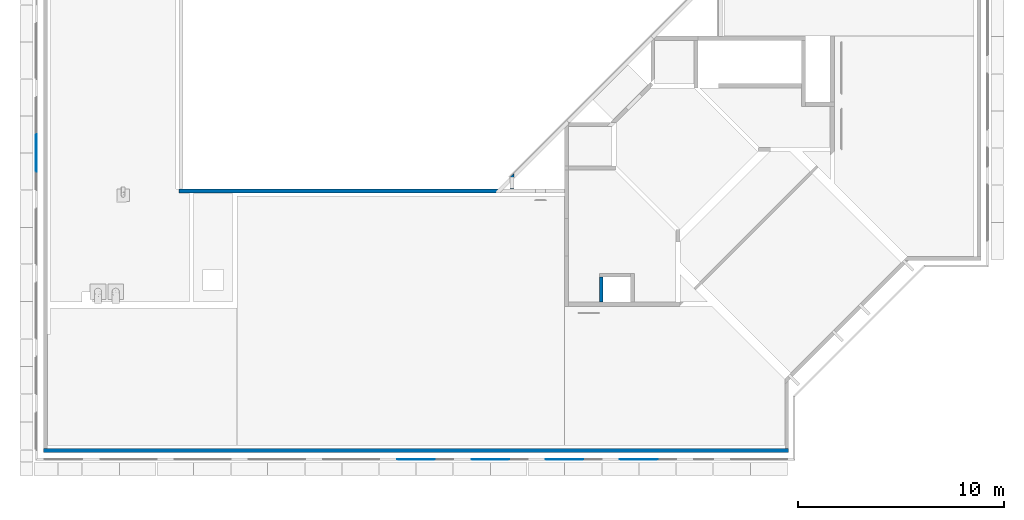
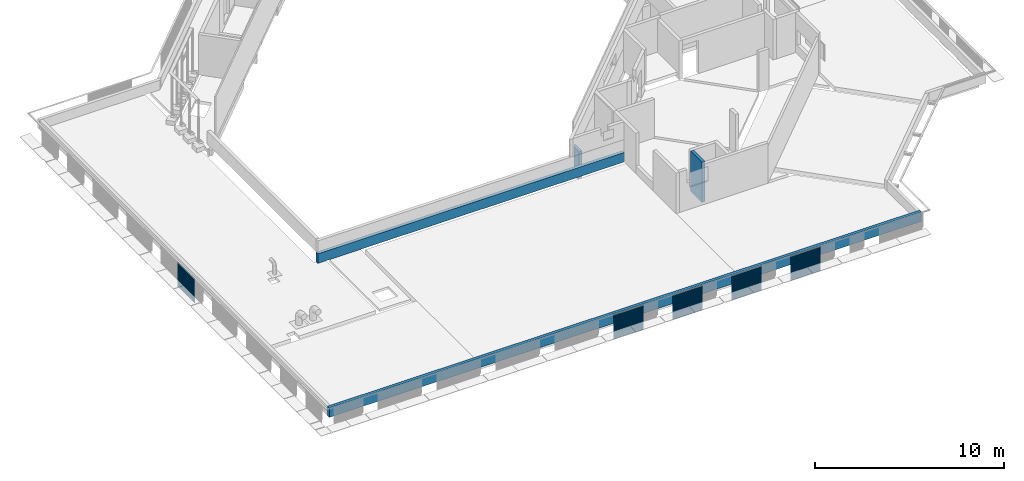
# One storey, part 9 of 37: 14 walls.
"""IFC4X3_ADD2 building model written with IfcOpenShell, lengths in millimetres."""

from ifc_helpers import new_model, si_unit, direction, frame, frame_2d, origin_with_axes, origin_2d_with_axis, place, context, subcontext, project, spatial, polyline, rectangle, outline, extrude, material, type_object, element, save


model = new_model("IFC4X3_ADD2")

# Units and contexts
model_context = context("Model", 3, precision=1e-05, world=origin_with_axes(), true_north=direction((0.0, 1.0)))
body_context = subcontext(model_context, "Body", "Model", "MODEL_VIEW")
ifc_project = project(units=[si_unit("LENGTHUNIT", "METRE", prefix="MILLI"), si_unit("AREAUNIT", "SQUARE_METRE"), si_unit("VOLUMEUNIT", "CUBIC_METRE"), si_unit("PLANEANGLEUNIT", "RADIAN"), si_unit("TIMEUNIT", "SECOND"), si_unit("MASSUNIT", "GRAM")], contexts=[model_context])

# Site, building, storey
site_placement = place(None, origin_with_axes())
site = spatial("IfcSite", under=ifc_project, at=site_placement, Name="Site", CompositionType="ELEMENT")
building_placement = place(site_placement, origin_with_axes())
building = spatial("IfcBuilding", under=site, at=building_placement, Name="IFC Building Story")
storey_placement = place(building_placement, frame((0.0, 0.0, 14400.0), z_axis=(0.0, 0.0, 1.0), x_axis=(1.0, 0.0, 0.0)))
storey = spatial("IfcBuildingStorey", under=building, at=storey_placement, Name="040", Elevation=14400.0)

# Walls
ifc_material_1 = material(Name="BB_Beton_Bestaand")
wall_type_1 = type_object("IfcWallType", Name="BB_Beton_Bestaand 200", PredefinedType="NOTDEFINED", material=ifc_material_1)
wall_1_placement = place(storey_placement, origin_with_axes())
element("IfcWall", 1, at=wall_1_placement, inside=storey, type_object=wall_type_1, Name="Basic Wall:BB_XX_Wand uit beton, 200 mm", ObjectType="Basic Wall:BB_XX_Wand uit beton, 200 mm", PredefinedType="SOLIDWALL", context=body_context, shape_type="SweptSolid", body=[
    extrude(rectangle(XDim=18700.0, YDim=200.0000000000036, at=origin_2d_with_axis()), frame((-29455.0, 12595.004065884, -200.0), z_axis=(0.0, 0.0, 1.0), x_axis=(1.0, 0.0, 0.0)), (0.0, 0.0, 1.0), 619.999999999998),
])
wall_type_2 = type_object("IfcWallType", Name="BB_Beton_Bestaand 190", PredefinedType="NOTDEFINED", material=ifc_material_1)
wall_2_placement = place(storey_placement, origin_with_axes())
element("IfcWall", 2, at=wall_2_placement, inside=storey, type_object=wall_type_2, Name="Basic Wall:BB_XX_Wand uit beton, 190 mm", ObjectType="Basic Wall:BB_XX_Wand uit beton, 190 mm", PredefinedType="SOLIDWALL", context=body_context, shape_type="SweptSolid", body=[
    extrude(rectangle(XDim=36154.9999999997, YDim=190.0, at=origin_2d_with_axis()), frame((-27302.49999999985, 0.0, -200.0), z_axis=(0.0, 0.0, 1.0), x_axis=(1.0, 0.0, 0.0)), (0.0, 0.0, 1.0), 619.9999999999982),
])
ifc_material_2 = material(Name="BB_Metselwerk_Betonsteen")
wall_type_3 = type_object("IfcWallType", Name="BB_Metselwerk_Betonsteen 190", PredefinedType="NOTDEFINED", material=ifc_material_2)
wall_3_placement = place(storey_placement, origin_with_axes())
element("IfcWall", 3, at=wall_3_placement, inside=storey, type_object=wall_type_3, Name="Basic Wall:BB_03.09.24#05_Wand uit metselwerk_EI60, 190 mm", ObjectType="Basic Wall:BB_03.09.24#05_Wand uit metselwerk_EI60, 190 mm", PredefinedType="SOLIDWALL", context=body_context, shape_type="SweptSolid", body=[
    extrude(rectangle(XDim=1210.00000000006, YDim=190.0, at=frame_2d((0.0, 0.0), x_axis=(0.0, 1.0))), frame((-18319.9870716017, 7804.99999999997, -200.0), z_axis=(0.0, 0.0, 1.0), x_axis=(1.0, 0.0, 0.0)), (0.0, 0.0, 1.0), 2600.0),
])
wall_4_placement = place(storey_placement, origin_with_axes())
element("IfcWall", 4, at=wall_4_placement, inside=storey, type_object=wall_type_3, Name="Basic Wall:BB_03.09.24#03_Wand uit metselwerk, 190 mm", ObjectType="Basic Wall:BB_03.09.24#03_Wand uit metselwerk, 190 mm", PredefinedType="SOLIDWALL", context=body_context, shape_type="SweptSolid", body=[
    extrude(outline(polyline([(95.0, 424.8958182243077), (95.0, -329.8958182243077), (-95.0, -329.8958182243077), (-95.0, 234.8958182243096), (95.0, 424.8958182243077)])), frame((-22649.8526351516, 13024.89988410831, -200.0), z_axis=(0.0, 0.0, 1.0), x_axis=(1.0, 0.0, 0.0)), (0.0, 0.0, 1.0), 1450.00000030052),
])
ifc_material_3 = material(Name="BB_Metaal_Aluminium_Puntprofiel")
wall_type_4 = type_object("IfcWallType", Name="BB_Metaal_Aluminium_Puntprofiel 1", PredefinedType="NOTDEFINED", material=ifc_material_3)
wall_5_placement = place(storey_placement, origin_with_axes())
element("IfcWall", 5, at=wall_5_placement, inside=storey, type_object=wall_type_4, Name="BB_07.10_Gevelbekleding_PuntProfiel, 900 mm, vol_GMO:900 x 1600 mm", ObjectType="BB_07.10_Gevelbekleding_PuntProfiel, 900 mm, vol_GMO:900 x 1600 mm", PredefinedType="NOTDEFINED", context=body_context, shape_type="SweptSolid", body=[
    extrude(outline(polyline([(10.06027913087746, 349.0000000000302), (10.06027913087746, 371.0000000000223), (-23.93972086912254, 405.0000000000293), (10.06027913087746, 439.0000000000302), (10.06027913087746, 461.0000000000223), (11.06027913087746, 461.4142135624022), (11.06027913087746, 438.5857864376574), (-22.52550730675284, 405.0000000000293), (11.06027913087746, 371.4142135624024), (11.06027913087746, 348.5857864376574), (-22.52550730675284, 315.0000000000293), (11.06027913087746, 281.4142135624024), (11.06027913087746, 258.5857864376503), (-22.52550730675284, 225.0000000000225), (11.06027913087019, 191.4142135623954), (11.06027913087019, 168.5857864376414), (-22.52550730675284, 135.0000000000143), (11.06027913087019, 101.4142135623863), (11.06027913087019, 78.58578643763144), (-22.52550730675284, 45.00000000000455), (11.06027913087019, 11.41421356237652), (11.06027913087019, -11.41421356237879), (-22.52550730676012, -45.00000000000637), (11.06027913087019, -78.58578643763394), (11.06027913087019, -101.4142135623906), (-22.52550730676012, -135.0000000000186), (11.06027913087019, -168.5857864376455), (11.06027913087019, -191.4142135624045), (-22.52550730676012, -225.0000000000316), (11.06027913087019, -258.5857864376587), (11.06027913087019, -281.4142135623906), (-22.52550730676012, -315.0000000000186), (11.06027913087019, -348.5857864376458), (11.06027913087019, -371.4142135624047), (-22.52550730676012, -405.0000000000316), (11.06027913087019, -438.5857864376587), (11.06027913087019, -461.4142135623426), (10.06027913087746, -460.9999999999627), (10.06027913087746, -439.0000000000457), (-23.93972086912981, -405.0000000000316), (10.06027913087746, -371.0000000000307), (10.06027913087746, -349.0000000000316), (-23.93972086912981, -315.0000000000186), (10.06027913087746, -281.0000000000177), (10.06027913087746, -259.0000000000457), (-23.93972086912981, -225.0000000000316), (10.06027913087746, -191.0000000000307), (10.06027913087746, -169.0000000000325), (-23.93972086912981, -135.0000000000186), (10.06027913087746, -101.0000000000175), (10.06027913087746, -79.00000000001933), (-23.93972086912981, -45.00000000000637), (10.06027913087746, -11.00000000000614), (10.06027913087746, 10.9999999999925), (-23.93972086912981, 45.00000000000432), (10.06027913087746, 79.00000000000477), (10.06027913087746, 101.0000000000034), (-23.93972086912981, 135.0000000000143), (10.06027913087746, 169.0000000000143), (10.06027913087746, 191.0000000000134), (-23.93972086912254, 225.0000000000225), (10.06027913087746, 259.0000000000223), (10.06027913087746, 281.0000000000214), (-23.93972086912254, 315.0000000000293), (10.06027913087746, 349.0000000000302)])), frame((-45726.06027913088, 13980.00000000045, -960.0), z_axis=(0.0, 0.0, 1.0), x_axis=(1.0, 0.0, 0.0)), (0.0, 0.0, 1.0), 1600.0),
])
wall_6_placement = place(storey_placement, origin_with_axes())
element("IfcWall", 6, at=wall_6_placement, inside=storey, type_object=wall_type_4, Name="BB_07.10_Gevelbekleding_PuntProfiel, 900 mm, vol_GMO:900 x 1600 mm", ObjectType="BB_07.10_Gevelbekleding_PuntProfiel, 900 mm, vol_GMO:900 x 1600 mm", PredefinedType="NOTDEFINED", context=body_context, shape_type="SweptSolid", body=[
    extrude(outline(polyline([(10.06027913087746, 349.0000000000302), (10.06027913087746, 371.0000000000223), (-23.93972086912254, 405.0000000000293), (10.06027913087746, 439.0000000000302), (10.06027913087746, 461.0000000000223), (11.06027913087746, 461.4142135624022), (11.06027913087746, 438.5857864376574), (-22.52550730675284, 405.0000000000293), (11.06027913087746, 371.4142135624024), (11.06027913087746, 348.5857864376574), (-22.52550730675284, 315.0000000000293), (11.06027913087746, 281.4142135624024), (11.06027913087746, 258.5857864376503), (-22.52550730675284, 225.0000000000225), (11.06027913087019, 191.4142135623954), (11.06027913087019, 168.5857864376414), (-22.52550730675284, 135.0000000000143), (11.06027913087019, 101.4142135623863), (11.06027913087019, 78.58578643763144), (-22.52550730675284, 45.00000000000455), (11.06027913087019, 11.41421356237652), (11.06027913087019, -11.41421356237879), (-22.52550730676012, -45.00000000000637), (11.06027913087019, -78.58578643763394), (11.06027913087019, -101.4142135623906), (-22.52550730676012, -135.0000000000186), (11.06027913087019, -168.5857864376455), (11.06027913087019, -191.4142135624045), (-22.52550730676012, -225.0000000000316), (11.06027913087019, -258.5857864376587), (11.06027913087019, -281.4142135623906), (-22.52550730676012, -315.0000000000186), (11.06027913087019, -348.5857864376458), (11.06027913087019, -371.4142135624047), (-22.52550730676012, -405.0000000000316), (11.06027913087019, -438.5857864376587), (11.06027913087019, -461.4142135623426), (10.06027913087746, -460.9999999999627), (10.06027913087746, -439.0000000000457), (-23.93972086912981, -405.0000000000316), (10.06027913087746, -371.0000000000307), (10.06027913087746, -349.0000000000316), (-23.93972086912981, -315.0000000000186), (10.06027913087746, -281.0000000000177), (10.06027913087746, -259.0000000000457), (-23.93972086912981, -225.0000000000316), (10.06027913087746, -191.0000000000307), (10.06027913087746, -169.0000000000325), (-23.93972086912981, -135.0000000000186), (10.06027913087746, -101.0000000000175), (10.06027913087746, -79.00000000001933), (-23.93972086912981, -45.00000000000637), (10.06027913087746, -11.00000000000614), (10.06027913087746, 10.9999999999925), (-23.93972086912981, 45.00000000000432), (10.06027913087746, 79.00000000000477), (10.06027913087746, 101.0000000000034), (-23.93972086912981, 135.0000000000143), (10.06027913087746, 169.0000000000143), (10.06027913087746, 191.0000000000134), (-23.93972086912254, 225.0000000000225), (10.06027913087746, 259.0000000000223), (10.06027913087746, 281.0000000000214), (-23.93972086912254, 315.0000000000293), (10.06027913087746, 349.0000000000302)])), frame((-45726.06027913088, 14880.00000000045, -960.0), z_axis=(0.0, 0.0, 1.0), x_axis=(1.0, 0.0, 0.0)), (0.0, 0.0, 1.0), 1600.0),
])
wall_7_placement = place(storey_placement, origin_with_axes())
element("IfcWall", 7, at=wall_7_placement, inside=storey, type_object=wall_type_4, Name="BB_07.10_Gevelbekleding_PuntProfiel, 900 mm, vol_GMO:900 x 1600 mm", ObjectType="BB_07.10_Gevelbekleding_PuntProfiel, 900 mm, vol_GMO:900 x 1600 mm", PredefinedType="NOTDEFINED", context=body_context, shape_type="SweptSolid", body=[
    extrude(outline(polyline([(-349.00000000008, 10.06027913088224), (-371.0000000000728, 10.06027913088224), (-405.0000000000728, -23.93972086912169), (-439.0000000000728, 10.06027913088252), (-461.0000000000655, 10.06027913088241), (-461.4142135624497, 11.060279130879), (-438.5857864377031, 11.060279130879), (-405.0000000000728, -22.52550730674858), (-371.414213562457, 11.06027913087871), (-348.5857864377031, 11.06027913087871), (-315.00000000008, -22.52550730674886), (-281.4142135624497, 11.06027913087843), (-258.5857864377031, 11.06027913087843), (-225.0000000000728, -22.52550730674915), (-191.4142135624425, 11.06027913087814), (-168.5857864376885, 11.06027913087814), (-135.0000000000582, -22.52550730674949), (-101.4142135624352, 11.06027913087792), (-78.58578643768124, 11.06027913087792), (-45.00000000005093, -22.52550730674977), (-11.41421356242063, 11.06027913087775), (11.41421356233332, 11.06027913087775), (44.99999999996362, -22.52550730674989), (78.58578643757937, 11.0602791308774), (101.4142135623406, 11.0602791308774), (134.9999999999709, -22.52550730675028), (168.5857864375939, 11.06027913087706), (191.4142135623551, 11.06027913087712), (224.9999999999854, -22.52550730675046), (258.5857864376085, 11.06027913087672), (281.4142135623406, 11.06027913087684), (314.9999999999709, -22.52550730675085), (348.5857864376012, 11.06027913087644), (371.4142135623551, 11.06027913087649), (404.9999999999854, -22.52550730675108), (438.5857864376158, 11.06027913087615), (461.4142135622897, 11.06027913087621), (460.9999999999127, 10.06027913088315), (438.9999999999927, 10.06027913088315), (404.9999999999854, -23.93972086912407), (370.9999999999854, 10.06027913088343), (348.9999999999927, 10.06027913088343), (314.9999999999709, -23.93972086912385), (280.9999999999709, 10.06027913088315), (259.0, 10.06027913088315), (224.9999999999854, -23.93972086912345), (190.9999999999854, 10.060279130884), (168.9999999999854, 10.060279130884), (134.9999999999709, -23.93972086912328), (100.9999999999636, 10.06027913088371), (78.9999999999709, 10.06027913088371), (44.99999999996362, -23.93972086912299), (10.99999999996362, 10.06027913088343), (-11.00000000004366, 10.06027913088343), (-45.00000000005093, -23.93972086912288), (-79.00000000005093, 10.06027913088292), (-101.0000000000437, 10.06027913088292), (-135.0000000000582, -23.9397208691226), (-169.0000000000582, 10.06027913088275), (-191.0000000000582, 10.06027913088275), (-225.0000000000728, -23.93972086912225), (-259.0000000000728, 10.06027913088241), (-281.0000000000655, 10.06027913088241), (-315.00000000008, -23.93972086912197), (-349.00000000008, 10.06027913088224)])), frame((-27750.0, -426.0602791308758, -960.0), z_axis=(0.0, 0.0, 1.0), x_axis=(1.0, 0.0, 0.0)), (0.0, 0.0, 1.0), 1600.0),
])
wall_8_placement = place(storey_placement, origin_with_axes())
element("IfcWall", 8, at=wall_8_placement, inside=storey, type_object=wall_type_4, Name="BB_07.10_Gevelbekleding_PuntProfiel, 900 mm, vol_GMO:900 x 1600 mm", ObjectType="BB_07.10_Gevelbekleding_PuntProfiel, 900 mm, vol_GMO:900 x 1600 mm", PredefinedType="NOTDEFINED", context=body_context, shape_type="SweptSolid", body=[
    extrude(outline(polyline([(-349.00000000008, 10.06027913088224), (-371.0000000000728, 10.06027913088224), (-405.0000000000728, -23.93972086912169), (-439.0000000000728, 10.06027913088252), (-461.0000000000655, 10.06027913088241), (-461.4142135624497, 11.060279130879), (-438.5857864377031, 11.060279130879), (-405.0000000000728, -22.52550730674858), (-371.414213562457, 11.06027913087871), (-348.5857864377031, 11.06027913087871), (-315.00000000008, -22.52550730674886), (-281.4142135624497, 11.06027913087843), (-258.5857864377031, 11.06027913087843), (-225.0000000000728, -22.52550730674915), (-191.4142135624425, 11.06027913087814), (-168.5857864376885, 11.06027913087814), (-135.0000000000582, -22.52550730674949), (-101.4142135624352, 11.06027913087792), (-78.58578643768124, 11.06027913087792), (-45.00000000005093, -22.52550730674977), (-11.41421356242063, 11.06027913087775), (11.41421356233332, 11.06027913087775), (44.99999999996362, -22.52550730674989), (78.58578643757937, 11.0602791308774), (101.4142135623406, 11.0602791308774), (134.9999999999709, -22.52550730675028), (168.5857864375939, 11.06027913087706), (191.4142135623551, 11.06027913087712), (224.9999999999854, -22.52550730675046), (258.5857864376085, 11.06027913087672), (281.4142135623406, 11.06027913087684), (314.9999999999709, -22.52550730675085), (348.5857864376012, 11.06027913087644), (371.4142135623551, 11.06027913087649), (404.9999999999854, -22.52550730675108), (438.5857864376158, 11.06027913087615), (461.4142135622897, 11.06027913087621), (460.9999999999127, 10.06027913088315), (438.9999999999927, 10.06027913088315), (404.9999999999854, -23.93972086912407), (370.9999999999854, 10.06027913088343), (348.9999999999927, 10.06027913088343), (314.9999999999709, -23.93972086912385), (280.9999999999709, 10.06027913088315), (259.0, 10.06027913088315), (224.9999999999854, -23.93972086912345), (190.9999999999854, 10.060279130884), (168.9999999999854, 10.060279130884), (134.9999999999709, -23.93972086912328), (100.9999999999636, 10.06027913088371), (78.9999999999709, 10.06027913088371), (44.99999999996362, -23.93972086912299), (10.99999999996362, 10.06027913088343), (-11.00000000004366, 10.06027913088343), (-45.00000000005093, -23.93972086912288), (-79.00000000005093, 10.06027913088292), (-101.0000000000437, 10.06027913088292), (-135.0000000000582, -23.9397208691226), (-169.0000000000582, 10.06027913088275), (-191.0000000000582, 10.06027913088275), (-225.0000000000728, -23.93972086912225), (-259.0000000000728, 10.06027913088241), (-281.0000000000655, 10.06027913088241), (-315.00000000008, -23.93972086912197), (-349.00000000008, 10.06027913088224)])), frame((-26850.0, -426.0602791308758, -960.0), z_axis=(0.0, 0.0, 1.0), x_axis=(1.0, 0.0, 0.0)), (0.0, 0.0, 1.0), 1600.0),
])
wall_9_placement = place(storey_placement, origin_with_axes())
element("IfcWall", 9, at=wall_9_placement, inside=storey, type_object=wall_type_4, Name="BB_07.10_Gevelbekleding_PuntProfiel, 900 mm, vol_GMO:900 x 1600 mm", ObjectType="BB_07.10_Gevelbekleding_PuntProfiel, 900 mm, vol_GMO:900 x 1600 mm", PredefinedType="NOTDEFINED", context=body_context, shape_type="SweptSolid", body=[
    extrude(outline(polyline([(-349.00000000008, 10.06027913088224), (-371.0000000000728, 10.06027913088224), (-405.0000000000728, -23.93972086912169), (-439.0000000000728, 10.06027913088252), (-461.0000000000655, 10.06027913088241), (-461.4142135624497, 11.060279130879), (-438.5857864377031, 11.060279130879), (-405.0000000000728, -22.52550730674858), (-371.414213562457, 11.06027913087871), (-348.5857864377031, 11.06027913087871), (-315.00000000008, -22.52550730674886), (-281.4142135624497, 11.06027913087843), (-258.5857864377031, 11.06027913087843), (-225.0000000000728, -22.52550730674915), (-191.4142135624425, 11.06027913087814), (-168.5857864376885, 11.06027913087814), (-135.0000000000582, -22.52550730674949), (-101.4142135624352, 11.06027913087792), (-78.58578643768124, 11.06027913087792), (-45.00000000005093, -22.52550730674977), (-11.41421356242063, 11.06027913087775), (11.41421356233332, 11.06027913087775), (44.99999999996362, -22.52550730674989), (78.58578643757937, 11.0602791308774), (101.4142135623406, 11.0602791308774), (134.9999999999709, -22.52550730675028), (168.5857864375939, 11.06027913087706), (191.4142135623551, 11.06027913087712), (224.9999999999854, -22.52550730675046), (258.5857864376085, 11.06027913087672), (281.4142135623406, 11.06027913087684), (314.9999999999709, -22.52550730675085), (348.5857864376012, 11.06027913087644), (371.4142135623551, 11.06027913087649), (404.9999999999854, -22.52550730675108), (438.5857864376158, 11.06027913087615), (461.4142135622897, 11.06027913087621), (460.9999999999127, 10.06027913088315), (438.9999999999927, 10.06027913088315), (404.9999999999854, -23.93972086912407), (370.9999999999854, 10.06027913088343), (348.9999999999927, 10.06027913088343), (314.9999999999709, -23.93972086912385), (280.9999999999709, 10.06027913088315), (259.0, 10.06027913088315), (224.9999999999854, -23.93972086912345), (190.9999999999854, 10.060279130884), (168.9999999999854, 10.060279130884), (134.9999999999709, -23.93972086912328), (100.9999999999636, 10.06027913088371), (78.9999999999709, 10.06027913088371), (44.99999999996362, -23.93972086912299), (10.99999999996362, 10.06027913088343), (-11.00000000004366, 10.06027913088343), (-45.00000000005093, -23.93972086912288), (-79.00000000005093, 10.06027913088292), (-101.0000000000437, 10.06027913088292), (-135.0000000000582, -23.9397208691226), (-169.0000000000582, 10.06027913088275), (-191.0000000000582, 10.06027913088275), (-225.0000000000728, -23.93972086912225), (-259.0000000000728, 10.06027913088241), (-281.0000000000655, 10.06027913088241), (-315.00000000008, -23.93972086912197), (-349.00000000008, 10.06027913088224)])), frame((-24150.0, -426.0602791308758, -960.0), z_axis=(0.0, 0.0, 1.0), x_axis=(1.0, 0.0, 0.0)), (0.0, 0.0, 1.0), 1600.0),
])
wall_10_placement = place(storey_placement, origin_with_axes())
element("IfcWall", 10, at=wall_10_placement, inside=storey, type_object=wall_type_4, Name="BB_07.10_Gevelbekleding_PuntProfiel, 900 mm, vol_GMO:900 x 1600 mm", ObjectType="BB_07.10_Gevelbekleding_PuntProfiel, 900 mm, vol_GMO:900 x 1600 mm", PredefinedType="NOTDEFINED", context=body_context, shape_type="SweptSolid", body=[
    extrude(outline(polyline([(-349.00000000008, 10.06027913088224), (-371.0000000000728, 10.06027913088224), (-405.0000000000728, -23.93972086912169), (-439.0000000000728, 10.06027913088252), (-461.0000000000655, 10.06027913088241), (-461.4142135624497, 11.060279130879), (-438.5857864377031, 11.060279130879), (-405.0000000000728, -22.52550730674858), (-371.414213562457, 11.06027913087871), (-348.5857864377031, 11.06027913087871), (-315.00000000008, -22.52550730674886), (-281.4142135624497, 11.06027913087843), (-258.5857864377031, 11.06027913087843), (-225.0000000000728, -22.52550730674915), (-191.4142135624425, 11.06027913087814), (-168.5857864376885, 11.06027913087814), (-135.0000000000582, -22.52550730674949), (-101.4142135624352, 11.06027913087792), (-78.58578643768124, 11.06027913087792), (-45.00000000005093, -22.52550730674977), (-11.41421356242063, 11.06027913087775), (11.41421356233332, 11.06027913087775), (44.99999999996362, -22.52550730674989), (78.58578643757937, 11.0602791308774), (101.4142135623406, 11.0602791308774), (134.9999999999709, -22.52550730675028), (168.5857864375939, 11.06027913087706), (191.4142135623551, 11.06027913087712), (224.9999999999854, -22.52550730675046), (258.5857864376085, 11.06027913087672), (281.4142135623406, 11.06027913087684), (314.9999999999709, -22.52550730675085), (348.5857864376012, 11.06027913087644), (371.4142135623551, 11.06027913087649), (404.9999999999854, -22.52550730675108), (438.5857864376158, 11.06027913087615), (461.4142135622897, 11.06027913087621), (460.9999999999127, 10.06027913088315), (438.9999999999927, 10.06027913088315), (404.9999999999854, -23.93972086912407), (370.9999999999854, 10.06027913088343), (348.9999999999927, 10.06027913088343), (314.9999999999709, -23.93972086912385), (280.9999999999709, 10.06027913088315), (259.0, 10.06027913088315), (224.9999999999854, -23.93972086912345), (190.9999999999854, 10.060279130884), (168.9999999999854, 10.060279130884), (134.9999999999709, -23.93972086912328), (100.9999999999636, 10.06027913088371), (78.9999999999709, 10.06027913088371), (44.99999999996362, -23.93972086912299), (10.99999999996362, 10.06027913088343), (-11.00000000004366, 10.06027913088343), (-45.00000000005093, -23.93972086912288), (-79.00000000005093, 10.06027913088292), (-101.0000000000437, 10.06027913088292), (-135.0000000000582, -23.9397208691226), (-169.0000000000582, 10.06027913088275), (-191.0000000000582, 10.06027913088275), (-225.0000000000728, -23.93972086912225), (-259.0000000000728, 10.06027913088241), (-281.0000000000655, 10.06027913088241), (-315.00000000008, -23.93972086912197), (-349.00000000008, 10.06027913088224)])), frame((-23250.0, -426.0602791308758, -960.0), z_axis=(0.0, 0.0, 1.0), x_axis=(1.0, 0.0, 0.0)), (0.0, 0.0, 1.0), 1600.0),
])
wall_11_placement = place(storey_placement, origin_with_axes())
element("IfcWall", 11, at=wall_11_placement, inside=storey, type_object=wall_type_4, Name="BB_07.10_Gevelbekleding_PuntProfiel, 900 mm, vol_GMO:900 x 1600 mm", ObjectType="BB_07.10_Gevelbekleding_PuntProfiel, 900 mm, vol_GMO:900 x 1600 mm", PredefinedType="NOTDEFINED", context=body_context, shape_type="SweptSolid", body=[
    extrude(outline(polyline([(-349.00000000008, 10.06027913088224), (-371.0000000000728, 10.06027913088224), (-405.0000000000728, -23.93972086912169), (-439.0000000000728, 10.06027913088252), (-461.0000000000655, 10.06027913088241), (-461.4142135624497, 11.060279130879), (-438.5857864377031, 11.060279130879), (-405.0000000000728, -22.52550730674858), (-371.414213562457, 11.06027913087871), (-348.5857864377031, 11.06027913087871), (-315.00000000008, -22.52550730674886), (-281.4142135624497, 11.06027913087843), (-258.5857864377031, 11.06027913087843), (-225.0000000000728, -22.52550730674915), (-191.4142135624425, 11.06027913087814), (-168.5857864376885, 11.06027913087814), (-135.0000000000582, -22.52550730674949), (-101.4142135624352, 11.06027913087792), (-78.58578643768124, 11.06027913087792), (-45.00000000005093, -22.52550730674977), (-11.41421356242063, 11.06027913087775), (11.41421356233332, 11.06027913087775), (44.99999999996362, -22.52550730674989), (78.58578643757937, 11.0602791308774), (101.4142135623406, 11.0602791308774), (134.9999999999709, -22.52550730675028), (168.5857864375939, 11.06027913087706), (191.4142135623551, 11.06027913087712), (224.9999999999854, -22.52550730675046), (258.5857864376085, 11.06027913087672), (281.4142135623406, 11.06027913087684), (314.9999999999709, -22.52550730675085), (348.5857864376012, 11.06027913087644), (371.4142135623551, 11.06027913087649), (404.9999999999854, -22.52550730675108), (438.5857864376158, 11.06027913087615), (461.4142135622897, 11.06027913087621), (460.9999999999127, 10.06027913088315), (438.9999999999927, 10.06027913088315), (404.9999999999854, -23.93972086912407), (370.9999999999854, 10.06027913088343), (348.9999999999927, 10.06027913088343), (314.9999999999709, -23.93972086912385), (280.9999999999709, 10.06027913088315), (259.0, 10.06027913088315), (224.9999999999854, -23.93972086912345), (190.9999999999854, 10.060279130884), (168.9999999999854, 10.060279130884), (134.9999999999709, -23.93972086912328), (100.9999999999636, 10.06027913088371), (78.9999999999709, 10.06027913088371), (44.99999999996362, -23.93972086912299), (10.99999999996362, 10.06027913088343), (-11.00000000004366, 10.06027913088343), (-45.00000000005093, -23.93972086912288), (-79.00000000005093, 10.06027913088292), (-101.0000000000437, 10.06027913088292), (-135.0000000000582, -23.9397208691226), (-169.0000000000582, 10.06027913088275), (-191.0000000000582, 10.06027913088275), (-225.0000000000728, -23.93972086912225), (-259.0000000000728, 10.06027913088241), (-281.0000000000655, 10.06027913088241), (-315.00000000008, -23.93972086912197), (-349.00000000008, 10.06027913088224)])), frame((-20550.0, -426.0602791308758, -960.0), z_axis=(0.0, 0.0, 1.0), x_axis=(1.0, 0.0, 0.0)), (0.0, 0.0, 1.0), 1600.0),
])
wall_12_placement = place(storey_placement, origin_with_axes())
element("IfcWall", 12, at=wall_12_placement, inside=storey, type_object=wall_type_4, Name="BB_07.10_Gevelbekleding_PuntProfiel, 900 mm, vol_GMO:900 x 1600 mm", ObjectType="BB_07.10_Gevelbekleding_PuntProfiel, 900 mm, vol_GMO:900 x 1600 mm", PredefinedType="NOTDEFINED", context=body_context, shape_type="SweptSolid", body=[
    extrude(outline(polyline([(-349.00000000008, 10.06027913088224), (-371.0000000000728, 10.06027913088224), (-405.0000000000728, -23.93972086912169), (-439.0000000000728, 10.06027913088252), (-461.0000000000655, 10.06027913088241), (-461.4142135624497, 11.060279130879), (-438.5857864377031, 11.060279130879), (-405.0000000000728, -22.52550730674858), (-371.414213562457, 11.06027913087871), (-348.5857864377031, 11.06027913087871), (-315.00000000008, -22.52550730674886), (-281.4142135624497, 11.06027913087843), (-258.5857864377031, 11.06027913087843), (-225.0000000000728, -22.52550730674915), (-191.4142135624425, 11.06027913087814), (-168.5857864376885, 11.06027913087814), (-135.0000000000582, -22.52550730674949), (-101.4142135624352, 11.06027913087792), (-78.58578643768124, 11.06027913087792), (-45.00000000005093, -22.52550730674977), (-11.41421356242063, 11.06027913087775), (11.41421356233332, 11.06027913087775), (44.99999999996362, -22.52550730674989), (78.58578643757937, 11.0602791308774), (101.4142135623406, 11.0602791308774), (134.9999999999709, -22.52550730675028), (168.5857864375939, 11.06027913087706), (191.4142135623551, 11.06027913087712), (224.9999999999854, -22.52550730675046), (258.5857864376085, 11.06027913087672), (281.4142135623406, 11.06027913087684), (314.9999999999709, -22.52550730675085), (348.5857864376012, 11.06027913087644), (371.4142135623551, 11.06027913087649), (404.9999999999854, -22.52550730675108), (438.5857864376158, 11.06027913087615), (461.4142135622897, 11.06027913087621), (460.9999999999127, 10.06027913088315), (438.9999999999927, 10.06027913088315), (404.9999999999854, -23.93972086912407), (370.9999999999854, 10.06027913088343), (348.9999999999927, 10.06027913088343), (314.9999999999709, -23.93972086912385), (280.9999999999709, 10.06027913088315), (259.0, 10.06027913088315), (224.9999999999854, -23.93972086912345), (190.9999999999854, 10.060279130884), (168.9999999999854, 10.060279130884), (134.9999999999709, -23.93972086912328), (100.9999999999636, 10.06027913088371), (78.9999999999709, 10.06027913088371), (44.99999999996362, -23.93972086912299), (10.99999999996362, 10.06027913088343), (-11.00000000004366, 10.06027913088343), (-45.00000000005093, -23.93972086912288), (-79.00000000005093, 10.06027913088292), (-101.0000000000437, 10.06027913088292), (-135.0000000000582, -23.9397208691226), (-169.0000000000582, 10.06027913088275), (-191.0000000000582, 10.06027913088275), (-225.0000000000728, -23.93972086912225), (-259.0000000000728, 10.06027913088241), (-281.0000000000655, 10.06027913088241), (-315.00000000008, -23.93972086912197), (-349.00000000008, 10.06027913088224)])), frame((-19650.0, -426.0602791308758, -960.0), z_axis=(0.0, 0.0, 1.0), x_axis=(1.0, 0.0, 0.0)), (0.0, 0.0, 1.0), 1600.0),
])
wall_13_placement = place(storey_placement, origin_with_axes())
element("IfcWall", 13, at=wall_13_placement, inside=storey, type_object=wall_type_4, Name="BB_07.10_Gevelbekleding_PuntProfiel, 900 mm, vol_GMO:900 x 1600 mm", ObjectType="BB_07.10_Gevelbekleding_PuntProfiel, 900 mm, vol_GMO:900 x 1600 mm", PredefinedType="NOTDEFINED", context=body_context, shape_type="SweptSolid", body=[
    extrude(outline(polyline([(-349.00000000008, 10.06027913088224), (-371.0000000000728, 10.06027913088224), (-405.0000000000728, -23.93972086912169), (-439.0000000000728, 10.06027913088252), (-461.0000000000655, 10.06027913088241), (-461.4142135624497, 11.060279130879), (-438.5857864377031, 11.060279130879), (-405.0000000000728, -22.52550730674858), (-371.414213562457, 11.06027913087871), (-348.5857864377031, 11.06027913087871), (-315.00000000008, -22.52550730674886), (-281.4142135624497, 11.06027913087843), (-258.5857864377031, 11.06027913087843), (-225.0000000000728, -22.52550730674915), (-191.4142135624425, 11.06027913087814), (-168.5857864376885, 11.06027913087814), (-135.0000000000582, -22.52550730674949), (-101.4142135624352, 11.06027913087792), (-78.58578643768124, 11.06027913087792), (-45.00000000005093, -22.52550730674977), (-11.41421356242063, 11.06027913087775), (11.41421356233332, 11.06027913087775), (44.99999999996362, -22.52550730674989), (78.58578643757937, 11.0602791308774), (101.4142135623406, 11.0602791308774), (134.9999999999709, -22.52550730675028), (168.5857864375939, 11.06027913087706), (191.4142135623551, 11.06027913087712), (224.9999999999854, -22.52550730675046), (258.5857864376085, 11.06027913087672), (281.4142135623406, 11.06027913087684), (314.9999999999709, -22.52550730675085), (348.5857864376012, 11.06027913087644), (371.4142135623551, 11.06027913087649), (404.9999999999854, -22.52550730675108), (438.5857864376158, 11.06027913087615), (461.4142135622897, 11.06027913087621), (460.9999999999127, 10.06027913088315), (438.9999999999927, 10.06027913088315), (404.9999999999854, -23.93972086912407), (370.9999999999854, 10.06027913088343), (348.9999999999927, 10.06027913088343), (314.9999999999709, -23.93972086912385), (280.9999999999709, 10.06027913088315), (259.0, 10.06027913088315), (224.9999999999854, -23.93972086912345), (190.9999999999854, 10.060279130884), (168.9999999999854, 10.060279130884), (134.9999999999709, -23.93972086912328), (100.9999999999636, 10.06027913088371), (78.9999999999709, 10.06027913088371), (44.99999999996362, -23.93972086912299), (10.99999999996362, 10.06027913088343), (-11.00000000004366, 10.06027913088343), (-45.00000000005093, -23.93972086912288), (-79.00000000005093, 10.06027913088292), (-101.0000000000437, 10.06027913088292), (-135.0000000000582, -23.9397208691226), (-169.0000000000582, 10.06027913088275), (-191.0000000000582, 10.06027913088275), (-225.0000000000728, -23.93972086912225), (-259.0000000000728, 10.06027913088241), (-281.0000000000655, 10.06027913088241), (-315.00000000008, -23.93972086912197), (-349.00000000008, 10.06027913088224)])), frame((-16950.0, -426.0602791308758, -960.0), z_axis=(0.0, 0.0, 1.0), x_axis=(1.0, 0.0, 0.0)), (0.0, 0.0, 1.0), 1600.0),
])
wall_14_placement = place(storey_placement, origin_with_axes())
element("IfcWall", 14, at=wall_14_placement, inside=storey, type_object=wall_type_4, Name="BB_07.10_Gevelbekleding_PuntProfiel, 900 mm, vol_GMO:900 x 1600 mm", ObjectType="BB_07.10_Gevelbekleding_PuntProfiel, 900 mm, vol_GMO:900 x 1600 mm", PredefinedType="NOTDEFINED", context=body_context, shape_type="SweptSolid", body=[
    extrude(outline(polyline([(-349.00000000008, 10.06027913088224), (-371.0000000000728, 10.06027913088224), (-405.0000000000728, -23.93972086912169), (-439.0000000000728, 10.06027913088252), (-461.0000000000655, 10.06027913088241), (-461.4142135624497, 11.060279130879), (-438.5857864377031, 11.060279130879), (-405.0000000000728, -22.52550730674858), (-371.414213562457, 11.06027913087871), (-348.5857864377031, 11.06027913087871), (-315.00000000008, -22.52550730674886), (-281.4142135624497, 11.06027913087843), (-258.5857864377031, 11.06027913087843), (-225.0000000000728, -22.52550730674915), (-191.4142135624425, 11.06027913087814), (-168.5857864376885, 11.06027913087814), (-135.0000000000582, -22.52550730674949), (-101.4142135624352, 11.06027913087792), (-78.58578643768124, 11.06027913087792), (-45.00000000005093, -22.52550730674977), (-11.41421356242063, 11.06027913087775), (11.41421356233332, 11.06027913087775), (44.99999999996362, -22.52550730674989), (78.58578643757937, 11.0602791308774), (101.4142135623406, 11.0602791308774), (134.9999999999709, -22.52550730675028), (168.5857864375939, 11.06027913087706), (191.4142135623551, 11.06027913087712), (224.9999999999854, -22.52550730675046), (258.5857864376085, 11.06027913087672), (281.4142135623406, 11.06027913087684), (314.9999999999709, -22.52550730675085), (348.5857864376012, 11.06027913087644), (371.4142135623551, 11.06027913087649), (404.9999999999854, -22.52550730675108), (438.5857864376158, 11.06027913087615), (461.4142135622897, 11.06027913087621), (460.9999999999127, 10.06027913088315), (438.9999999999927, 10.06027913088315), (404.9999999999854, -23.93972086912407), (370.9999999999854, 10.06027913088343), (348.9999999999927, 10.06027913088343), (314.9999999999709, -23.93972086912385), (280.9999999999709, 10.06027913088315), (259.0, 10.06027913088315), (224.9999999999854, -23.93972086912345), (190.9999999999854, 10.060279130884), (168.9999999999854, 10.060279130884), (134.9999999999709, -23.93972086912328), (100.9999999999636, 10.06027913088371), (78.9999999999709, 10.06027913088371), (44.99999999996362, -23.93972086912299), (10.99999999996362, 10.06027913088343), (-11.00000000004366, 10.06027913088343), (-45.00000000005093, -23.93972086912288), (-79.00000000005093, 10.06027913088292), (-101.0000000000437, 10.06027913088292), (-135.0000000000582, -23.9397208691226), (-169.0000000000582, 10.06027913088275), (-191.0000000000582, 10.06027913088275), (-225.0000000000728, -23.93972086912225), (-259.0000000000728, 10.06027913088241), (-281.0000000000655, 10.06027913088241), (-315.00000000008, -23.93972086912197), (-349.00000000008, 10.06027913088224)])), frame((-16050.0, -426.0602791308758, -960.0), z_axis=(0.0, 0.0, 1.0), x_axis=(1.0, 0.0, 0.0)), (0.0, 0.0, 1.0), 1600.0),
])

save(model, "model.ifc")
